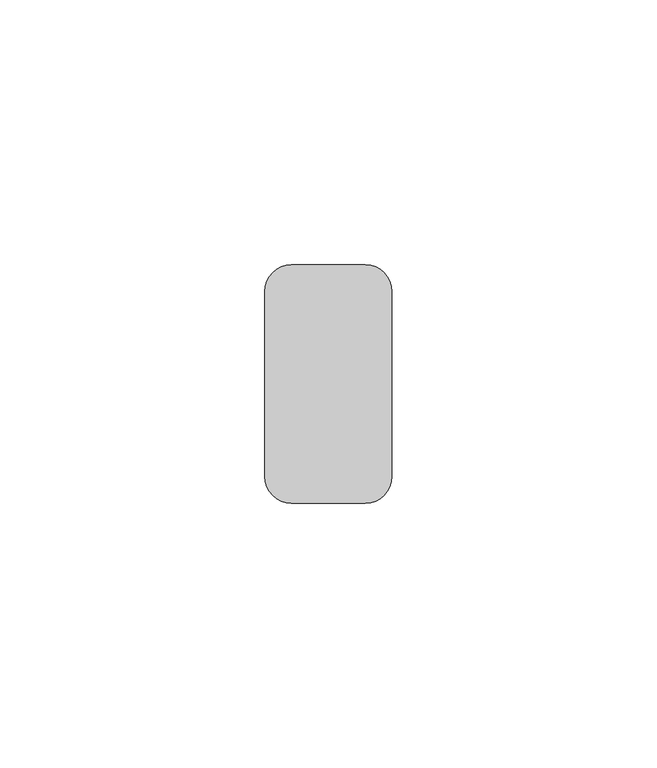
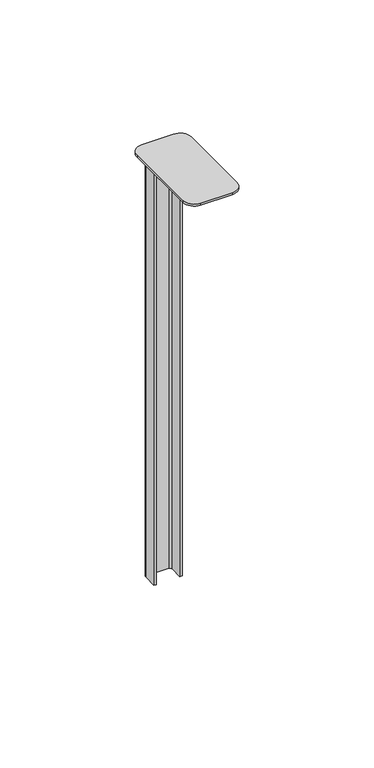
"""IFC4 building model written with IfcOpenShell, lengths in millimetres: proxy geometry, durlum_U1300 : durlum_U1300."""

import ifcopenshell
import ifcopenshell.guid

model = None  # the IFC model being written
_history = None  # IfcOwnerHistory: only IFC2X3 demands one
_inside = {}  # id of a spatial element -> (the spatial element, [elements in it])
_under = {}  # id of a project, library or spatial element -> (it, [spatial elements below it])
_declared = {}  # id of a project -> (the project, [libraries it declares])
_typed = {}  # id of a type object -> (the type object, [elements of that type])
_made_of = {}  # id of a material, layer set ... -> (it, [elements and type objects made of it])


def new_model(schema):
    """Start an empty IFC model of exactly this schema.

    Asked for "IFC4X3", IfcOpenShell would pick the latest addendum, in which some entities
    have other attributes; the version numbers below select the first issue.
    IFC2X3 requires an IfcOwnerHistory on every rooted entity: one is made here for all.
    """
    global model, _history
    if schema == "IFC4X3":
        model = ifcopenshell.file(schema_version=(4, 3, 0, 0))
    else:
        model = ifcopenshell.file(schema=schema)
    _inside.clear()
    _under.clear()
    _declared.clear()
    _typed.clear()
    _made_of.clear()
    _history = None
    if model.schema == "IFC2X3":
        org = make("IfcOrganization", Name="unknown")
        user = make(
            "IfcPersonAndOrganization",
            ThePerson=make("IfcPerson", FamilyName="unknown"),
            TheOrganization=org,
        )
        app = make(
            "IfcApplication",
            ApplicationDeveloper=org,
            Version="unknown",
            ApplicationFullName="unknown",
            ApplicationIdentifier="unknown",
        )
        _history = make(
            "IfcOwnerHistory",
            OwningUser=user,
            OwningApplication=app,
            ChangeAction="ADDED",
            CreationDate=0,
        )
    return model


def make(cls, **values):
    """One entity of the class cls with the attributes given. An attribute that is None is left unset."""
    return model.create_entity(
        cls, **{name: value for name, value in values.items() if value is not None}
    )


def rooted(cls, **values):
    """An entity with a GlobalId (a new one), such as an element, a storey or a relation."""
    return make(cls, GlobalId=ifcopenshell.guid.new(), OwnerHistory=_history, **values)


def si_unit(unit_type, name, prefix=None):
    """IfcSIUnit, for example si_unit("LENGTHUNIT", "METRE", prefix="MILLI")."""
    return make("IfcSIUnit", UnitType=unit_type, Prefix=prefix, Name=name)


def assignment(units):
    """IfcUnitAssignment: the units of a project."""
    return None if units is None else make("IfcUnitAssignment", Units=units)


def point(xyz):
    """IfcCartesianPoint."""
    return None if xyz is None else make("IfcCartesianPoint", Coordinates=xyz)


def direction(xyz):
    """IfcDirection."""
    return None if xyz is None else make("IfcDirection", DirectionRatios=xyz)


def frame(location, z_axis=None, x_axis=None):
    """IfcAxis2Placement3D, a coordinate frame: its origin and axes. An axis left out is left unset."""
    return make(
        "IfcAxis2Placement3D",
        Location=point(location),
        Axis=direction(z_axis),
        RefDirection=direction(x_axis),
    )


def frame_2d(location, x_axis=None):
    """IfcAxis2Placement2D, a coordinate frame in the plane: its origin and x axis."""
    return make(
        "IfcAxis2Placement2D", Location=point(location), RefDirection=direction(x_axis)
    )


def origin():
    """The frame at (0, 0, 0) with its axes left unset."""
    return frame((0.0, 0.0, 0.0))


def place(relative_to, where):
    """IfcLocalPlacement: puts the frame where relative to a parent placement (None: the world)."""
    return make(
        "IfcLocalPlacement", PlacementRelTo=relative_to, RelativePlacement=where
    )


def context(
    kind, dimensions, precision=None, world=None, true_north=None, identifier=None
):
    """IfcGeometricRepresentationContext, for example the 3D "Model" context."""
    return make(
        "IfcGeometricRepresentationContext",
        ContextIdentifier=identifier,
        ContextType=kind,
        CoordinateSpaceDimension=dimensions,
        Precision=precision,
        WorldCoordinateSystem=world,
        TrueNorth=true_north,
    )


def project(units=None, contexts=None):
    """IfcProject with its units and contexts."""
    return rooted(
        "IfcProject",
        Name="project",
        RepresentationContexts=contexts,
        UnitsInContext=assignment(units),
    )


def spatial(cls, under=None, at=None, **own):
    """A site, building, storey or space (cls), placed at a placement, below another one or the project."""
    s = rooted(cls, ObjectPlacement=at, **own)
    if under is not None:
        _under.setdefault(under.id(), (under, []))[1].append(s)
    return s


def polyline(points):
    """IfcPolyline through the points."""
    return make("IfcPolyline", Points=[point(p) for p in points])


def circle_curve(where, radius):
    """IfcCircle in the frame where."""
    return make("IfcCircle", Position=where, Radius=radius)


def trimmed(basis, trim1, trim2, sense, master):
    """IfcTrimmedCurve: the piece of a basis curve between two trims."""
    return make(
        "IfcTrimmedCurve",
        BasisCurve=basis,
        Trim1=trim1,
        Trim2=trim2,
        SenseAgreement=sense,
        MasterRepresentation=master,
    )


def segment(curve, same_sense, transition):
    """IfcCompositeCurveSegment."""
    return make(
        "IfcCompositeCurveSegment",
        Transition=transition,
        SameSense=same_sense,
        ParentCurve=curve,
    )


def composite_curve(segments, self_intersect=None):
    """IfcCompositeCurve: segments joined end to end."""
    return make("IfcCompositeCurve", Segments=segments, SelfIntersect=self_intersect)


def outline(outer, holes=None, kind="AREA"):
    """IfcArbitraryClosedProfileDef: a profile drawn as a closed curve; with holes, ...WithVoids."""
    if holes is None:
        return make("IfcArbitraryClosedProfileDef", ProfileType=kind, OuterCurve=outer)
    return make(
        "IfcArbitraryProfileDefWithVoids",
        ProfileType=kind,
        OuterCurve=outer,
        InnerCurves=holes,
    )


def extrude(swept, where, along, depth):
    """IfcExtrudedAreaSolid: the profile swept, set in the frame where, extruded along a direction by depth."""
    return make(
        "IfcExtrudedAreaSolid",
        SweptArea=swept,
        Position=where,
        ExtrudedDirection=direction(along),
        Depth=depth,
    )


def shape(context_of_items, identifier, shape_type, items):
    """IfcShapeRepresentation: the items that make up one representation, for example the "Body"."""
    return make(
        "IfcShapeRepresentation",
        ContextOfItems=context_of_items,
        RepresentationIdentifier=identifier,
        RepresentationType=shape_type,
        Items=items,
    )


def source(mapping_origin, context_of_items, identifier, shape_type, items):
    """IfcRepresentationMap: a shape defined once, which mapped items show again and again."""
    return make(
        "IfcRepresentationMap",
        MappingOrigin=mapping_origin,
        MappedRepresentation=shape(context_of_items, identifier, shape_type, items),
    )


def transform(
    local_origin,
    x_axis=None,
    y_axis=None,
    z_axis=None,
    scale=None,
    scale2=None,
    scale3=None,
    uniform=True,
):
    """IfcCartesianTransformationOperator3D, or its non-uniform kind. x_axis, y_axis, z_axis: its Axis1, 2, 3."""
    if uniform:
        return make(
            "IfcCartesianTransformationOperator3D",
            Axis1=direction(x_axis),
            Axis2=direction(y_axis),
            LocalOrigin=point(local_origin),
            Scale=scale,
            Axis3=direction(z_axis),
        )
    return make(
        "IfcCartesianTransformationOperator3DnonUniform",
        Axis1=direction(x_axis),
        Axis2=direction(y_axis),
        LocalOrigin=point(local_origin),
        Scale=scale,
        Axis3=direction(z_axis),
        Scale2=scale2,
        Scale3=scale3,
    )


def mapped(mapping_source, mapping_target):
    """IfcMappedItem: shows the shape of a source again, moved by a transform."""
    return make(
        "IfcMappedItem", MappingSource=mapping_source, MappingTarget=mapping_target
    )


def made_of(thing, what):
    """Note that an element or type object is made of a material, layer set ...; save() writes the relation."""
    if what is not None:
        _made_of.setdefault(what.id(), (what, []))[1].append(thing)
    return thing


def element(
    cls,
    number,
    at=None,
    inside=None,
    cuts=None,
    type_object=None,
    material=None,
    context=None,
    identifier="Body",
    shape_type=None,
    held_by="IfcProductDefinitionShape",
    body=None,
    shapes=None,
    **own,
):
    """One element of the class cls, such as IfcWall. Its Tag is "e" and its number.

    at: its placement. inside: the storey or other place that contains it. cuts: it is an
    opening in that element (IfcRelVoidsElement). A single representation is given by context,
    identifier, shape_type and body (its items); several are given by shapes. held_by: the class
    of the entity that holds the representations. save() writes the other relations.
    """
    e = rooted(cls, Tag="e%d" % number, ObjectPlacement=at, **own)
    if body is not None:
        shapes = [shape(context, identifier, shape_type, body)]
    if shapes is not None:
        e.Representation = make(held_by, Representations=shapes)
    if inside is not None:
        _inside.setdefault(inside.id(), (inside, []))[1].append(e)
    if cuts is not None:
        rooted(
            "IfcRelVoidsElement", RelatingBuildingElement=cuts, RelatedOpeningElement=e
        )
    if type_object is not None:
        _typed.setdefault(type_object.id(), (type_object, []))[1].append(e)
    return made_of(e, material)


def aggregate(whole, parts):
    """IfcRelAggregates: a whole, such as a stair, and the parts it consists of."""
    return rooted("IfcRelAggregates", RelatingObject=whole, RelatedObjects=parts)


def save(model, path):
    """Write the relations noted so far, then the file.

    IfcRelAggregates (storeys below a building ...), IfcRelContainedInSpatialStructure (elements
    in a storey), IfcRelDefinesByType, IfcRelAssociatesMaterial and IfcRelDeclares: one each for
    every whole, place, type object, material and project.
    """
    for whole, parts in _under.values():
        aggregate(whole, parts)
    for where, things in _inside.values():
        rooted(
            "IfcRelContainedInSpatialStructure",
            RelatedElements=things,
            RelatingStructure=where,
        )
    for kind, things in _typed.values():
        rooted("IfcRelDefinesByType", RelatedObjects=things, RelatingType=kind)
    for what, things in _made_of.values():
        rooted("IfcRelAssociatesMaterial", RelatedObjects=things, RelatingMaterial=what)
    for by, libraries in _declared.values():
        rooted("IfcRelDeclares", RelatingContext=by, RelatedDefinitions=libraries)
    model.write(path)


def generic_models_f1efeb4e(model_context):
    return source(origin(), model_context, "Body", "SweptSolid", [
        extrude(outline(composite_curve([segment(trimmed(circle_curve(frame_2d((7.0, -5.0)), 5.0), [point((7.0, 0.0))], [point((12.0, -5.0))], False, "CARTESIAN"), True, "CONTINUOUS"), segment(polyline([(12.0, -5.0), (12.0, -40.0)]), True, "CONTINUOUS"), segment(trimmed(circle_curve(frame_2d((7.0, -40.0)), 5.0), [point((12.0, -40.0))], [point((7.0, -45.0))], False, "CARTESIAN"), True, "CONTINUOUS"), segment(polyline([(7.0, -45.0), (-7.0, -45.0)]), True, "CONTINUOUS"), segment(trimmed(circle_curve(frame_2d((-7.0, -40.0)), 5.0), [point((-7.0, -45.0))], [point((-12.0, -40.0))], False, "CARTESIAN"), True, "CONTINUOUS"), segment(polyline([(-12.0, -40.0), (-12.0, -5.0)]), True, "CONTINUOUS"), segment(trimmed(circle_curve(frame_2d((-7.0, -5.0)), 5.0), [point((-12.0, -5.0))], [point((-7.0, 0.0))], False, "CARTESIAN"), True, "CONTINUOUS"), segment(polyline([(-7.0, 0.0), (7.0, 0.0)]), True, "CONTINUOUS")], self_intersect=False)), frame((0.0, 0.0, 917.0875318), z_axis=(0.0, 0.0, 1.0), x_axis=(1.0, 0.0, 0.0)), (0.0, 0.0, 1.0), 1.0),
        extrude(outline(composite_curve([segment(trimmed(circle_curve(frame_2d((-4.25, -2.0)), 2.0), [point((-6.25, -2.0))], [point((-4.25, 0.0))], False, "CARTESIAN"), True, "CONTINUOUS"), segment(polyline([(-4.25, 0.0), (4.25, 0.0)]), True, "CONTINUOUS"), segment(trimmed(circle_curve(frame_2d((4.25, -2.0)), 2.0), [point((4.25, 0.0))], [point((6.25, -2.0))], False, "CARTESIAN"), True, "CONTINUOUS"), segment(polyline([(6.25, -2.0), (6.25, -8.0), (5.25, -8.0), (5.25, -2.0)]), True, "CONTINUOUS"), segment(trimmed(circle_curve(frame_2d((4.25, -2.0)), 1.0), [point((5.25, -2.0))], [point((4.25, -1.0))], True, "CARTESIAN"), True, "CONTINUOUS"), segment(polyline([(4.25, -1.0), (-4.25, -1.0)]), True, "CONTINUOUS"), segment(trimmed(circle_curve(frame_2d((-4.25, -2.0)), 1.0), [point((-4.25, -1.0))], [point((-5.25, -2.0))], True, "CARTESIAN"), True, "CONTINUOUS"), segment(polyline([(-5.25, -2.0), (-5.25, -8.0), (-6.25, -8.0), (-6.25, -2.0)]), True, "CONTINUOUS")], self_intersect=False)), frame((0.0, 0.0, 716.5875318), z_axis=(0.0, 0.0, 1.0), x_axis=(1.0, 0.0, 0.0)), (0.0, 0.0, 1.0), 200.5),
    ])


if __name__ == "__main__":
    model = new_model("IFC4")
    model_context = context("Model", 3, world=origin())
    ifc_project = project(units=[si_unit("LENGTHUNIT", "METRE", prefix="MILLI")], contexts=[model_context])
    site = spatial("IfcSite", under=ifc_project)
    building = spatial("IfcBuilding", under=site)
    placement = place(None, origin())
    generic_models_shape = generic_models_f1efeb4e(model_context)
    element("IfcBuildingElementProxy", 1, Name="durlum_U1300 : durlum_U1300", ObjectType="durlum_U1300 : durlum_U1300", at=placement, inside=building, context=model_context, shape_type="MappedRepresentation", body=[
        mapped(generic_models_shape, transform((0.0, 0.0, 0.0), x_axis=(1.0, 0.0, 0.0), y_axis=(0.0, 1.0, 0.0), z_axis=(0.0, 0.0, 1.0))),
    ])
    save(model, "model.ifc")
